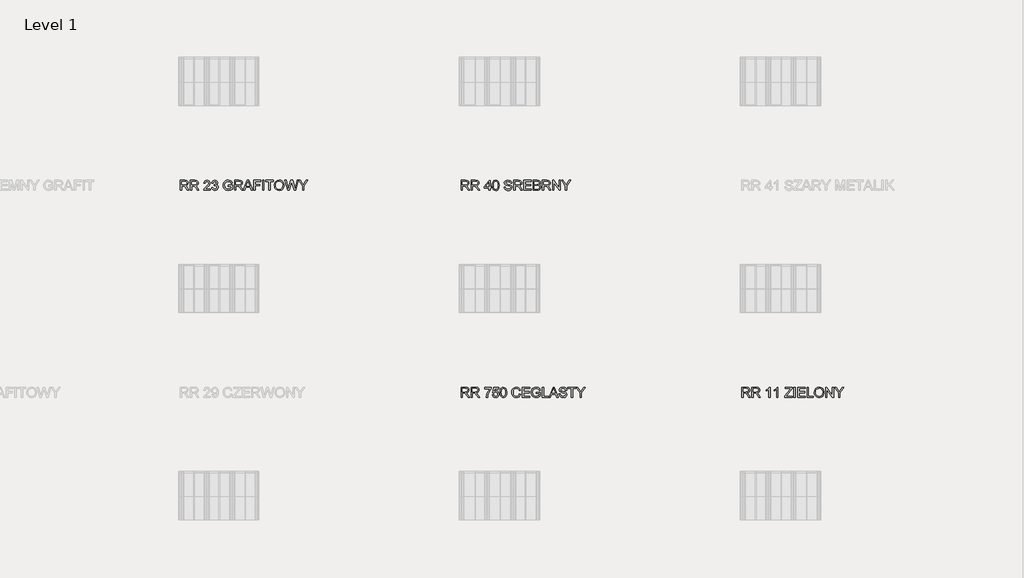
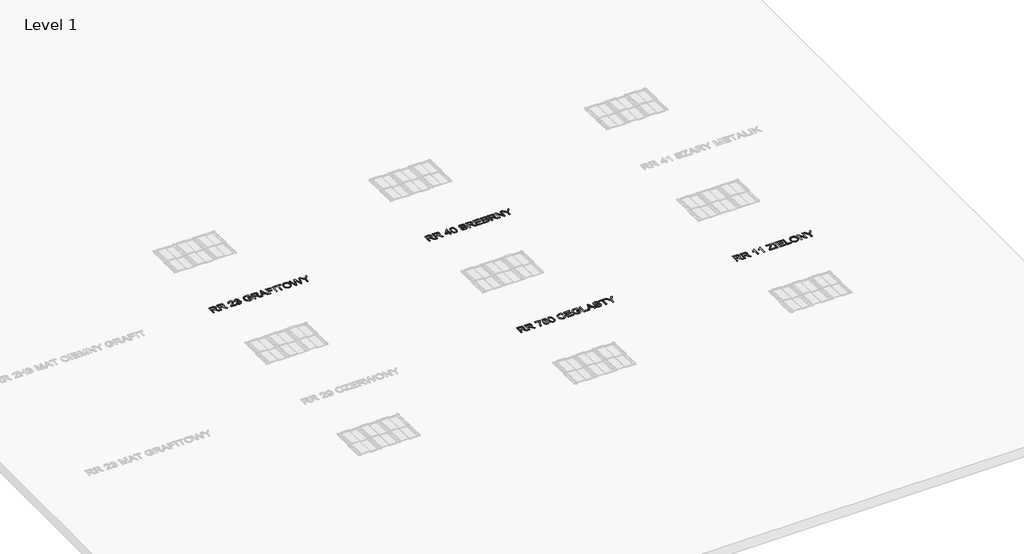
# One storey, part 6 of 10: 4 proxies.
"""IFC4 building model written with IfcOpenShell, lengths in millimetres."""

from ifc_helpers import new_model, si_unit, frame, origin, place, context, project, spatial, polyline, outline, extrude, element, save

model = new_model("IFC4")

# Units and contexts
model_context = context("Model", 3, world=origin())
ifc_project = project(units=[si_unit("LENGTHUNIT", "METRE", prefix="MILLI")], contexts=[model_context])

# Site, building, storey
site = spatial("IfcSite", under=ifc_project)
building = spatial("IfcBuilding", under=site)
storey = spatial("IfcBuildingStorey", under=building, Name="Level 1", Elevation=0.0)

# Proxies
placement = place(None, origin())
element("IfcBuildingElementProxy", 1, Name="150 Blue", ObjectType="150 Blue", at=placement, inside=storey, context=model_context, shape_type="SweptSolid", body=[
    extrude(outline(polyline([(-4536.4118342, -1635.6514112), (-4536.4118342, -1484.966946), (-4471.4806621, -1484.966946), (-4441.3327325, -1489.032042), (-4432.0529092, -1494.6606365), (-4424.8516192, -1503.416228), (-4420.2301016, -1514.2733454), (-4418.6895957, -1526.2065176), (-4421.2417771, -1541.0505561), (-4428.8983211, -1553.3562089), (-4441.8891541, -1562.3785148), (-4460.4442022, -1567.3725129), (-4449.7388361, -1575.4291286), (-4434.4717333, -1594.8165097), (-4409.3453931, -1635.6514112), (-4431.2343718, -1635.6514112), (-4450.8424821, -1604.4182298), (-4465.0059389, -1583.7432617), (-4474.9571469, -1573.9759947), (-4483.9150735, -1570.3891452), (-4494.8411687, -1569.7269577), (-4517.576276, -1569.7269577), (-4517.576276, -1635.6514112), (-4536.4118342, -1635.6514112)]), holes=[polyline([(-4517.576276, -1550.8913995), (-4475.4169994, -1550.8913995), (-4453.9142968, -1548.224255), (-4441.7006145, -1539.6893927), (-4437.5251539, -1526.9054934), (-4439.5163152, -1517.7176406), (-4445.4897991, -1510.3140154), (-4455.7675023, -1505.4303819), (-4470.6713217, -1503.8025041), (-4517.576276, -1503.8025041), (-4517.576276, -1550.8913995)])]), frame((0.0, 0.0, 600.0), z_axis=(0.0, 0.0, 1.0), x_axis=(1.0, 0.0, 0.0)), (0.0, 0.0, 1.0), 10.0),
    extrude(outline(polyline([(-4385.727369, -1635.6514112), (-4385.727369, -1484.966946), (-4320.7961968, -1484.966946), (-4290.6482673, -1489.032042), (-4281.368444, -1494.6606365), (-4274.1671539, -1503.416228), (-4269.5456364, -1514.2733454), (-4268.0051305, -1526.2065176), (-4270.5573119, -1541.0505561), (-4278.2138559, -1553.3562089), (-4291.2046888, -1562.3785148), (-4309.759737, -1567.3725129), (-4299.0543709, -1575.4291286), (-4283.7872681, -1594.8165097), (-4258.6609278, -1635.6514112), (-4280.5499066, -1635.6514112), (-4300.1580169, -1604.4182298), (-4314.3214737, -1583.7432617), (-4324.2726817, -1573.9759947), (-4333.2306083, -1570.3891452), (-4344.1567035, -1569.7269577), (-4366.8918108, -1569.7269577), (-4366.8918108, -1635.6514112), (-4385.727369, -1635.6514112)]), holes=[polyline([(-4366.8918108, -1550.8913995), (-4324.7325342, -1550.8913995), (-4303.2298316, -1548.224255), (-4291.0161493, -1539.6893927), (-4286.8406887, -1526.9054934), (-4288.83185, -1517.7176406), (-4294.8053339, -1510.3140154), (-4305.0830371, -1505.4303819), (-4319.9868564, -1503.8025041), (-4366.8918108, -1503.8025041), (-4366.8918108, -1550.8913995)])]), frame((0.0, 0.0, 600.0), z_axis=(0.0, 0.0, 1.0), x_axis=(1.0, 0.0, 0.0)), (0.0, 0.0, 1.0), 10.0),
    extrude(outline(polyline([(-4086.7128833, -1616.815853), (-4086.7128833, -1635.6514112), (-4185.5995636, -1635.6514112), (-4183.5762126, -1622.6651768), (-4172.1166885, -1602.6707903), (-4148.5170585, -1580.8369939), (-4116.0146842, -1549.4566597), (-4109.9308357, -1538.6409291), (-4107.9028862, -1528.119504), (-4109.8204711, -1518.6879293), (-4115.5732258, -1510.8474443), (-4124.4161893, -1505.5637392), (-4135.6044005, -1503.8025041), (-4147.3536317, -1505.5223524), (-4156.4817037, -1510.6818974), (-4162.3724141, -1518.8764689), (-4164.4095607, -1529.7013966), (-4183.2451188, -1527.3469518), (-4178.6787836, -1509.127596), (-4168.8057505, -1495.8194648), (-4154.1410545, -1487.6800757), (-4135.1997303, -1484.966946), (-4116.1204503, -1487.9835783), (-4101.4833454, -1497.0334754), (-4092.1713324, -1510.5531387), (-4089.0673281, -1526.9790698), (-4092.4150542, -1544.8397407), (-4103.5434846, -1563.3074168), (-4130.5276289, -1589.1143388), (-4152.1958784, -1607.2325271), (-4160.6939525, -1616.815853), (-4086.7128833, -1616.815853)])), frame((0.0, 0.0, 600.0), z_axis=(0.0, 0.0, 1.0), x_axis=(1.0, 0.0, 0.0)), (0.0, 0.0, 1.0), 10.0),
    extrude(outline(polyline([(-4067.8773251, -1595.6258501), (-4049.041767, -1593.2714053), (-4044.8249196, -1605.1080085), (-4038.6491006, -1613.1002449), (-4030.2108074, -1617.6527846), (-4019.2065372, -1619.1702978), (-4006.2938792, -1617.0825675), (-3996.3242771, -1610.8193765), (-3989.9507215, -1601.4751738), (-3987.826203, -1590.1444084), (-3989.9323274, -1579.3884586), (-3996.2507007, -1570.6650567), (-4005.8156326, -1564.8847109), (-4017.6614328, -1562.9579289), (-4030.8683964, -1565.0180681), (-4028.7714691, -1546.18251), (-4025.7548367, -1546.4032392), (-4004.3808928, -1540.9953738), (-3997.2623762, -1534.1343746), (-3994.8895373, -1524.3671076), (-3996.6093856, -1516.232317), (-4001.7689306, -1509.6334337), (-4009.6416053, -1505.2602365), (-4019.5008428, -1503.8025041), (-4029.3784744, -1505.2740321), (-4037.4534841, -1509.688616), (-4043.3487931, -1517.0462559), (-4046.6873222, -1527.3469518), (-4065.5228804, -1524.992507), (-4059.9770593, -1508.0791323), (-4050.1086248, -1495.4515828), (-4036.6073556, -1487.5881052), (-4020.1630304, -1484.966946), (-3997.4463172, -1490.135688), (-3981.553815, -1504.2623566), (-3976.0539791, -1523.2634617), (-3981.2779035, -1540.6274918), (-3996.7289473, -1553.0986915), (-3984.9383293, -1557.8627633), (-3976.2011319, -1565.9745613), (-3970.7932666, -1576.9926271), (-3968.9906448, -1590.4755022), (-3972.5958884, -1608.8328137), (-3983.4116191, -1624.1734929), (-3999.7363826, -1634.5477652), (-4019.8687248, -1638.005856), (-4038.0788835, -1635.0536029), (-4052.9045279, -1626.1968439), (-4063.2144209, -1612.6495894), (-4067.8773251, -1595.6258501)])), frame((0.0, 0.0, 600.0), z_axis=(0.0, 0.0, 1.0), x_axis=(1.0, 0.0, 0.0)), (0.0, 0.0, 1.0), 10.0),
    extrude(outline(polyline([(-3815.9517348, -1576.790292), (-3815.9517348, -1557.9547338), (-3754.7361709, -1557.9547338), (-3754.7361709, -1614.2774673), (-3784.9576768, -1632.0461676), (-3816.908228, -1638.005856), (-3838.0384501, -1635.6376156), (-3857.1361242, -1628.5328946), (-3873.0010353, -1616.9400132), (-3884.4329683, -1601.1072918), (-3891.3445512, -1582.1153838), (-3893.6484122, -1561.0449426), (-3891.3537483, -1539.82275), (-3884.4697564, -1520.0812824), (-3873.2815453, -1503.5219941), (-3858.0742233, -1491.8463393), (-3839.5513648, -1484.9209607), (-3818.4165442, -1482.6125012), (-3788.9491964, -1487.9651842), (-3777.1999652, -1494.3663309), (-3768.2926224, -1502.864405), (-3756.9066746, -1527.7884102), (-3774.2707048, -1532.6812407), (-3782.8607494, -1515.2620283), (-3797.539241, -1505.2188498), (-3818.7108498, -1501.4480593), (-3842.8255146, -1505.5131554), (-3859.2330516, -1516.1817333), (-3868.9267422, -1530.694678), (-3874.8128541, -1560.2723904), (-3873.042422, -1578.2848126), (-3867.7311257, -1593.1058584), (-3859.0399135, -1604.6297619), (-3847.1297339, -1612.750757), (-3833.1916048, -1617.5654126), (-3818.4165442, -1619.1702978), (-3792.6464105, -1614.3326496), (-3773.571729, -1604.0135596), (-3773.571729, -1576.790292), (-3815.9517348, -1576.790292)])), frame((0.0, 0.0, 600.0), z_axis=(0.0, 0.0, 1.0), x_axis=(1.0, 0.0, 0.0)), (0.0, 0.0, 1.0), 10.0),
    extrude(outline(polyline([(-3724.1283889, -1635.6514112), (-3724.1283889, -1484.966946), (-3659.1972167, -1484.966946), (-3629.0492872, -1489.032042), (-3619.7694639, -1494.6606365), (-3612.5681738, -1503.416228), (-3607.9466563, -1514.2733454), (-3606.4061504, -1526.2065176), (-3608.9583317, -1541.0505561), (-3616.6148758, -1553.3562089), (-3629.6057087, -1562.3785148), (-3648.1607568, -1567.3725129), (-3637.4553908, -1575.4291286), (-3622.188288, -1594.8165097), (-3597.0619477, -1635.6514112), (-3618.9509264, -1635.6514112), (-3638.5590368, -1604.4182298), (-3652.7224936, -1583.7432617), (-3662.6737016, -1573.9759947), (-3671.6316281, -1570.3891452), (-3682.5577234, -1569.7269577), (-3705.2928307, -1569.7269577), (-3705.2928307, -1635.6514112), (-3724.1283889, -1635.6514112)]), holes=[polyline([(-3705.2928307, -1550.8913995), (-3663.1335541, -1550.8913995), (-3641.6308514, -1548.224255), (-3629.4171692, -1539.6893927), (-3625.2417085, -1526.9054934), (-3627.2328698, -1517.7176406), (-3633.2063537, -1510.3140154), (-3643.484057, -1505.4303819), (-3658.3878763, -1503.8025041), (-3705.2928307, -1503.8025041), (-3705.2928307, -1550.8913995)])]), frame((0.0, 0.0, 600.0), z_axis=(0.0, 0.0, 1.0), x_axis=(1.0, 0.0, 0.0)), (0.0, 0.0, 1.0), 10.0),
    extrude(outline(polyline([(-3590.9551066, -1635.6514112), (-3530.8064004, -1484.966946), (-3514.7667454, -1484.966946), (-3454.6548274, -1635.6514112), (-3474.5572433, -1635.6514112), (-3491.7741207, -1588.5625158), (-3553.8726015, -1588.5625158), (-3571.0894789, -1635.6514112), (-3590.9551066, -1635.6514112)]), holes=[polyline([(-3546.95642, -1569.7269577), (-3498.653514, -1569.7269577), (-3512.2651478, -1532.6812407), (-3522.8233611, -1503.8025041), (-3532.204352, -1529.4438792), (-3546.95642, -1569.7269577)])]), frame((0.0, 0.0, 600.0), z_axis=(0.0, 0.0, 1.0), x_axis=(1.0, 0.0, 0.0)), (0.0, 0.0, 1.0), 10.0),
    extrude(outline(polyline([(-3434.5316822, -1635.6514112), (-3434.5316822, -1484.966946), (-3333.2905572, -1484.966946), (-3333.2905572, -1503.8025041), (-3415.6961241, -1503.8025041), (-3415.6961241, -1548.5369547), (-3345.062781, -1548.5369547), (-3345.062781, -1567.3725129), (-3415.6961241, -1567.3725129), (-3415.6961241, -1635.6514112), (-3434.5316822, -1635.6514112)])), frame((0.0, 0.0, 600.0), z_axis=(0.0, 0.0, 1.0), x_axis=(1.0, 0.0, 0.0)), (0.0, 0.0, 1.0), 10.0),
    extrude(outline(polyline([(-3305.0372199, -1635.6514112), (-3305.0372199, -1484.966946), (-3286.2016618, -1484.966946), (-3286.2016618, -1635.6514112), (-3305.0372199, -1635.6514112)])), frame((0.0, 0.0, 600.0), z_axis=(0.0, 0.0, 1.0), x_axis=(1.0, 0.0, 0.0)), (0.0, 0.0, 1.0), 10.0),
    extrude(outline(polyline([(-3210.8594292, -1635.6514112), (-3210.8594292, -1503.8025041), (-3260.3027693, -1503.8025041), (-3260.3027693, -1484.966946), (-3142.5805309, -1484.966946), (-3142.5805309, -1503.8025041), (-3192.023871, -1503.8025041), (-3192.023871, -1635.6514112), (-3210.8594292, -1635.6514112)])), frame((0.0, 0.0, 600.0), z_axis=(0.0, 0.0, 1.0), x_axis=(1.0, 0.0, 0.0)), (0.0, 0.0, 1.0), 10.0),
    extrude(outline(polyline([(-3128.4538623, -1562.2957413), (-3123.432273, -1528.9748296), (-3117.1552865, -1515.356298), (-3108.3675053, -1503.7657159), (-3085.3656836, -1487.9008049), (-3056.5329322, -1482.6125012), (-3036.768472, -1485.0957047), (-3019.0457569, -1492.5453151), (-3004.3304771, -1504.4371006), (-2993.5883228, -1520.2468293), (-2987.0216292, -1539.2111462), (-2984.8327313, -1560.566696), (-2987.1365923, -1582.2073543), (-2994.0481753, -1601.4383856), (-3005.1858027, -1617.2757055), (-3020.167797, -1628.7352297), (-3037.7387608, -1635.6881994), (-3056.6432968, -1638.005856), (-3076.7112596, -1635.4444776), (-3094.5351423, -1627.7603424), (-3109.2136339, -1615.6478277), (-3119.8454236, -1599.8013108), (-3126.3017526, -1581.5681594), (-3128.4538623, -1562.2957413)]), holes=[polyline([(-3109.6183041, -1562.4796823), (-3105.8521122, -1586.0517212), (-3094.5535364, -1604.0135596), (-3077.5711838, -1615.3811133), (-3056.7536614, -1619.1702978), (-3035.6326364, -1615.3443251), (-3018.6226926, -1603.8664068), (-3007.4068903, -1585.3527454), (-3003.6682895, -1560.4195432), (-3005.2685762, -1543.7452917), (-3010.0694362, -1529.3335146), (-3017.9467094, -1517.5474952), (-3028.7762357, -1508.750517), (-3041.840645, -1503.2736737), (-3056.4225676, -1501.4480593), (-3076.6836685, -1504.9659309), (-3093.9097429, -1515.5195457), (-3105.6911638, -1534.295323), (-3109.6183041, -1562.4796823)])]), frame((0.0, 0.0, 600.0), z_axis=(0.0, 0.0, 1.0), x_axis=(1.0, 0.0, 0.0)), (0.0, 0.0, 1.0), 10.0),
    extrude(outline(polyline([(-2931.9680886, -1635.6514112), (-2973.0605075, -1484.966946), (-2953.6363382, -1484.966946), (-2929.7975849, -1584.0007791), (-2922.439945, -1614.5717729), (-2914.5672703, -1587.5324462), (-2884.6952523, -1484.966946), (-2856.6994324, -1484.966946), (-2834.9943947, -1559.3158972), (-2818.8443751, -1614.5717729), (-2811.7074644, -1584.8836959), (-2787.6847701, -1484.966946), (-2768.2238126, -1484.966946), (-2809.2794432, -1635.6514112), (-2829.4393766, -1635.6514112), (-2865.6021767, -1519.4007007), (-2870.64216, -1503.1771047), (-2876.3075428, -1522.7116387), (-2909.2329813, -1635.6514112), (-2931.9680886, -1635.6514112)])), frame((0.0, 0.0, 600.0), z_axis=(0.0, 0.0, 1.0), x_axis=(1.0, 0.0, 0.0)), (0.0, 0.0, 1.0), 10.0),
    extrude(outline(polyline([(-2707.0082486, -1635.6514112), (-2707.0082486, -1571.823885), (-2765.8693678, -1484.966946), (-2743.6860835, -1484.966946), (-2712.2689611, -1531.3568656), (-2696.1925179, -1555.048466), (-2680.0424983, -1529.6646084), (-2651.5316437, -1484.966946), (-2629.3115712, -1484.966946), (-2688.1726904, -1571.823885), (-2688.1726904, -1635.6514112), (-2707.0082486, -1635.6514112)])), frame((0.0, 0.0, 600.0), z_axis=(0.0, 0.0, 1.0), x_axis=(1.0, 0.0, 0.0)), (0.0, 0.0, 1.0), 10.0),
])
element("IfcBuildingElementProxy", 2, Name="150 Blue", ObjectType="150 Blue", at=placement, inside=storey, context=model_context, shape_type="SweptSolid", body=[
    extrude(outline(polyline([(-336.4118342, -1635.6514112), (-336.4118342, -1484.966946), (-271.4806621, -1484.966946), (-241.3327325, -1489.032042), (-232.0529092, -1494.6606365), (-224.8516192, -1503.416228), (-220.2301016, -1514.2733454), (-218.6895957, -1526.2065176), (-221.2417771, -1541.0505561), (-228.8983211, -1553.3562089), (-241.8891541, -1562.3785148), (-260.4442022, -1567.3725129), (-249.7388361, -1575.4291286), (-234.4717333, -1594.8165097), (-209.3453931, -1635.6514112), (-231.2343718, -1635.6514112), (-250.8424821, -1604.4182298), (-265.0059389, -1583.7432617), (-274.9571469, -1573.9759947), (-283.9150735, -1570.3891452), (-294.8411687, -1569.7269577), (-317.576276, -1569.7269577), (-317.576276, -1635.6514112), (-336.4118342, -1635.6514112)]), holes=[polyline([(-317.576276, -1550.8913995), (-275.4169994, -1550.8913995), (-253.9142968, -1548.224255), (-241.7006145, -1539.6893927), (-237.5251539, -1526.9054934), (-239.5163152, -1517.7176406), (-245.4897991, -1510.3140154), (-255.7675023, -1505.4303819), (-270.6713217, -1503.8025041), (-317.576276, -1503.8025041), (-317.576276, -1550.8913995)])]), frame((0.0, 0.0, 600.0), z_axis=(0.0, 0.0, 1.0), x_axis=(1.0, 0.0, 0.0)), (0.0, 0.0, 1.0), 10.0),
    extrude(outline(polyline([(-185.727369, -1635.6514112), (-185.727369, -1484.966946), (-120.7961968, -1484.966946), (-90.6482673, -1489.032042), (-81.368444, -1494.6606365), (-74.1671539, -1503.416228), (-69.5456364, -1514.2733454), (-68.0051305, -1526.2065176), (-70.5573119, -1541.0505561), (-78.2138559, -1553.3562089), (-91.2046888, -1562.3785148), (-109.759737, -1567.3725129), (-99.0543709, -1575.4291286), (-83.7872681, -1594.8165097), (-58.6609278, -1635.6514112), (-80.5499066, -1635.6514112), (-100.1580169, -1604.4182298), (-114.3214737, -1583.7432617), (-124.2726817, -1573.9759947), (-133.2306083, -1570.3891452), (-144.1567035, -1569.7269577), (-166.8918108, -1569.7269577), (-166.8918108, -1635.6514112), (-185.727369, -1635.6514112)]), holes=[polyline([(-166.8918108, -1550.8913995), (-124.7325342, -1550.8913995), (-103.2298316, -1548.224255), (-91.0161493, -1539.6893927), (-86.8406887, -1526.9054934), (-88.83185, -1517.7176406), (-94.8053339, -1510.3140154), (-105.0830371, -1505.4303819), (-119.9868564, -1503.8025041), (-166.8918108, -1503.8025041), (-166.8918108, -1550.8913995)])]), frame((0.0, 0.0, 600.0), z_axis=(0.0, 0.0, 1.0), x_axis=(1.0, 0.0, 0.0)), (0.0, 0.0, 1.0), 10.0),
    extrude(outline(polyline([(77.9704452, -1635.6514112), (77.9704452, -1600.3347397), (9.6915469, -1600.3347397), (9.6915469, -1581.4991815), (82.6793347, -1487.3213907), (96.8060033, -1487.3213907), (96.8060033, -1581.4991815), (115.6415615, -1581.4991815), (115.6415615, -1600.3347397), (96.8060033, -1600.3347397), (96.8060033, -1635.6514112), (77.9704452, -1635.6514112)]), holes=[polyline([(77.9704452, -1581.4991815), (77.9704452, -1523.3002499), (32.8681126, -1581.4991815), (77.9704452, -1581.4991815)])]), frame((0.0, 0.0, 600.0), z_axis=(0.0, 0.0, 1.0), x_axis=(1.0, 0.0, 0.0)), (0.0, 0.0, 1.0), 10.0),
    extrude(outline(polyline([(132.1226749, -1561.5231892), (133.5068309, -1537.4039259), (137.6592989, -1518.168296), (144.5386922, -1503.5219941), (154.1036241, -1493.1707145), (166.4230724, -1487.0178881), (181.566015, -1484.966946), (203.5653583, -1489.8229883), (218.7588847, -1503.8208982), (227.5880526, -1526.1145471), (231.0093552, -1561.5231892), (229.6389947, -1585.5044967), (225.5279134, -1604.6941413), (218.6899068, -1619.3542388), (209.1387705, -1629.7469052), (196.7917311, -1635.9411183), (181.566015, -1638.005856), (161.9946929, -1634.4190065), (147.1322603, -1623.6584581), (135.8750712, -1598.1734329), (132.1226749, -1561.5231892)]), holes=[polyline([(150.958233, -1561.486401), (153.165525, -1591.1146971), (159.7874009, -1608.2625966), (169.6466384, -1616.4433725), (181.566015, -1619.1702978), (193.4853917, -1616.4341755), (203.3446291, -1608.2258084), (209.966505, -1591.0687119), (212.173797, -1561.486401), (210.0400814, -1532.5248909), (203.6389347, -1515.2436342), (193.7980913, -1506.6627866), (181.3452858, -1503.8025041), (169.5546679, -1506.3224958), (160.0817065, -1513.8824708), (153.2391014, -1532.2397823), (150.958233, -1561.486401)])]), frame((0.0, 0.0, 600.0), z_axis=(0.0, 0.0, 1.0), x_axis=(1.0, 0.0, 0.0)), (0.0, 0.0, 1.0), 10.0),
    extrude(outline(polyline([(306.3515878, -1583.8536263), (325.1871459, -1583.8536263), (331.2571988, -1602.7075785), (346.0828432, -1614.6269552), (368.6707978, -1619.1702978), (388.3524845, -1615.7306011), (401.0628074, -1606.2760339), (405.2382681, -1593.6392873), (402.1112711, -1581.8854576), (389.3089777, -1573.3322012), (361.8833749, -1566.1401082), (332.3608448, -1556.8510878), (316.3395839, -1542.8347838), (311.0604773, -1524.1095903), (312.6929537, -1513.0777289), (317.5903827, -1502.7908286), (325.6240058, -1494.0720253), (336.6650642, -1487.744455), (364.5873076, -1482.6125012), (394.3857492, -1487.9835783), (405.8084852, -1494.6146513), (414.251377, -1503.7657159), (419.5948629, -1514.8665551), (421.7193815, -1527.3469518), (402.8838233, -1527.3469518), (399.4257326, -1516.1081569), (392.2152454, -1507.9963589), (380.9488593, -1503.0851342), (365.3230716, -1501.4480593), (349.3294019, -1503.0667401), (338.3573214, -1507.9227825), (332.0113569, -1515.0688902), (329.8960355, -1523.5577673), (331.3951546, -1530.7958455), (335.892512, -1536.6175781), (366.6474468, -1547.1390031), (399.9775555, -1556.5935704), (410.7151113, -1563.4269785), (418.2061084, -1571.8606732), (422.6068968, -1581.8026841), (424.0738262, -1593.1610407), (422.3861676, -1604.7723162), (417.3231916, -1615.6938129), (409.091832, -1625.0931979), (397.8990223, -1632.1381381), (384.4391398, -1636.5389265), (369.4065617, -1638.005856), (350.9526812, -1636.4239634), (335.7637533, -1631.6782856), (323.6650342, -1623.7504286), (314.4817799, -1612.6219983), (308.5864709, -1599.0655468), (306.3515878, -1583.8536263)])), frame((0.0, 0.0, 600.0), z_axis=(0.0, 0.0, 1.0), x_axis=(1.0, 0.0, 0.0)), (0.0, 0.0, 1.0), 10.0),
    extrude(outline(polyline([(452.3271635, -1635.6514112), (452.3271635, -1484.966946), (517.2583356, -1484.966946), (547.4062651, -1489.032042), (556.6860884, -1494.6606365), (563.8873785, -1503.416228), (568.5088961, -1514.2733454), (570.0494019, -1526.2065176), (567.4972206, -1541.0505561), (559.8406765, -1553.3562089), (546.8498436, -1562.3785148), (528.2947955, -1567.3725129), (539.0001615, -1575.4291286), (554.2672643, -1594.8165097), (579.3936046, -1635.6514112), (557.5046259, -1635.6514112), (537.8965155, -1604.4182298), (523.7330587, -1583.7432617), (513.7818508, -1573.9759947), (504.8239242, -1570.3891452), (493.8978289, -1569.7269577), (471.1627216, -1569.7269577), (471.1627216, -1635.6514112), (452.3271635, -1635.6514112)]), holes=[polyline([(471.1627216, -1550.8913995), (513.3219983, -1550.8913995), (534.8247009, -1548.224255), (547.0383831, -1539.6893927), (551.2138438, -1526.9054934), (549.2226825, -1517.7176406), (543.2491986, -1510.3140154), (532.9714953, -1505.4303819), (518.067676, -1503.8025041), (471.1627216, -1503.8025041), (471.1627216, -1550.8913995)])]), frame((0.0, 0.0, 600.0), z_axis=(0.0, 0.0, 1.0), x_axis=(1.0, 0.0, 0.0)), (0.0, 0.0, 1.0), 10.0),
    extrude(outline(polyline([(603.0116287, -1635.6514112), (603.0116287, -1484.966946), (711.3160881, -1484.966946), (711.3160881, -1503.8025041), (621.8471868, -1503.8025041), (621.8471868, -1548.5369547), (706.6071985, -1548.5369547), (706.6071985, -1567.3725129), (621.8471868, -1567.3725129), (621.8471868, -1616.815853), (713.6705328, -1616.815853), (713.6705328, -1635.6514112), (603.0116287, -1635.6514112)])), frame((0.0, 0.0, 600.0), z_axis=(0.0, 0.0, 1.0), x_axis=(1.0, 0.0, 0.0)), (0.0, 0.0, 1.0), 10.0),
    extrude(outline(polyline([(741.9238701, -1635.6514112), (741.9238701, -1484.966946), (799.4238259, -1484.966946), (827.5851926, -1489.399924), (837.048957, -1495.02392), (844.2134588, -1503.0299519), (850.2283294, -1522.3069685), (845.169952, -1539.9101219), (829.8844551, -1553.2458443), (840.5576315, -1558.8192565), (848.4441018, -1567.2989365), (853.3139397, -1578.1238642), (854.937219, -1590.7330196), (850.5042409, -1610.9849234), (839.5229634, -1625.4058976), (823.1338205, -1633.0578431), (798.9823675, -1635.6514112), (741.9238701, -1635.6514112)]), holes=[polyline([(760.7594282, -1546.18251), (795.1563948, -1546.18251), (815.2427517, -1544.5638292), (827.3276752, -1537.5924654), (831.3927713, -1525.3236008), (827.6035867, -1513.0363422), (816.7510679, -1505.7706728), (792.5444326, -1503.8025041), (760.7594282, -1503.8025041), (760.7594282, -1546.18251)]), polyline([(760.7594282, -1616.815853), (799.3870377, -1616.815853), (813.3665535, -1616.080089), (825.1939597, -1611.9782048), (833.0298462, -1603.6088894), (836.1016608, -1590.9169606), (832.4964173, -1576.2752572), (820.8161639, -1567.5380598), (797.5476277, -1565.0180681), (760.7594282, -1565.0180681), (760.7594282, -1616.815853)])]), frame((0.0, 0.0, 600.0), z_axis=(0.0, 0.0, 1.0), x_axis=(1.0, 0.0, 0.0)), (0.0, 0.0, 1.0), 10.0),
    extrude(outline(polyline([(880.8361114, -1635.6514112), (880.8361114, -1484.966946), (945.7672836, -1484.966946), (975.9152131, -1489.032042), (985.1950364, -1494.6606365), (992.3963265, -1503.416228), (997.017844, -1514.2733454), (998.5583499, -1526.2065176), (996.0061686, -1541.0505561), (988.3496245, -1553.3562089), (975.3587916, -1562.3785148), (956.8037434, -1567.3725129), (967.5091095, -1575.4291286), (982.7762123, -1594.8165097), (1007.9025526, -1635.6514112), (986.0135739, -1635.6514112), (966.4054635, -1604.4182298), (952.2420067, -1583.7432617), (942.2907987, -1573.9759947), (933.3328722, -1570.3891452), (922.4067769, -1569.7269577), (899.6716696, -1569.7269577), (899.6716696, -1635.6514112), (880.8361114, -1635.6514112)]), holes=[polyline([(899.6716696, -1550.8913995), (941.8309462, -1550.8913995), (963.3336489, -1548.224255), (975.5473311, -1539.6893927), (979.7227917, -1526.9054934), (977.7316304, -1517.7176406), (971.7581465, -1510.3140154), (961.4804433, -1505.4303819), (946.576624, -1503.8025041), (899.6716696, -1503.8025041), (899.6716696, -1550.8913995)])]), frame((0.0, 0.0, 600.0), z_axis=(0.0, 0.0, 1.0), x_axis=(1.0, 0.0, 0.0)), (0.0, 0.0, 1.0), 10.0),
    extrude(outline(polyline([(1031.5205767, -1635.6514112), (1031.5205767, -1484.966946), (1051.68051, -1484.966946), (1130.407257, -1604.3446534), (1130.407257, -1484.966946), (1149.2428151, -1484.966946), (1149.2428151, -1635.6514112), (1129.0828818, -1635.6514112), (1050.3561348, -1516.2369156), (1050.3561348, -1635.6514112), (1031.5205767, -1635.6514112)])), frame((0.0, 0.0, 600.0), z_axis=(0.0, 0.0, 1.0), x_axis=(1.0, 0.0, 0.0)), (0.0, 0.0, 1.0), 10.0),
    extrude(outline(polyline([(1224.5850477, -1635.6514112), (1224.5850477, -1571.823885), (1165.7239285, -1484.966946), (1187.9072128, -1484.966946), (1219.3243352, -1531.3568656), (1235.4007784, -1555.048466), (1251.550798, -1529.6646084), (1280.0616526, -1484.966946), (1302.2817251, -1484.966946), (1243.4206059, -1571.823885), (1243.4206059, -1635.6514112), (1224.5850477, -1635.6514112)])), frame((0.0, 0.0, 600.0), z_axis=(0.0, 0.0, 1.0), x_axis=(1.0, 0.0, 0.0)), (0.0, 0.0, 1.0), 10.0),
])
element("IfcBuildingElementProxy", 3, Name="150 Blue", ObjectType="150 Blue", at=placement, inside=storey, context=model_context, shape_type="SweptSolid", body=[
    extrude(outline(polyline([(-336.4118342, -4735.6514112), (-336.4118342, -4584.966946), (-271.4806621, -4584.966946), (-241.3327325, -4589.032042), (-232.0529092, -4594.6606365), (-224.8516192, -4603.416228), (-220.2301016, -4614.2733454), (-218.6895957, -4626.2065176), (-221.2417771, -4641.0505561), (-228.8983211, -4653.3562089), (-241.8891541, -4662.3785148), (-260.4442022, -4667.3725129), (-249.7388361, -4675.4291286), (-234.4717333, -4694.8165097), (-209.3453931, -4735.6514112), (-231.2343718, -4735.6514112), (-250.8424821, -4704.4182298), (-265.0059389, -4683.7432617), (-274.9571469, -4673.9759947), (-283.9150735, -4670.3891452), (-294.8411687, -4669.7269577), (-317.576276, -4669.7269577), (-317.576276, -4735.6514112), (-336.4118342, -4735.6514112)]), holes=[polyline([(-317.576276, -4650.8913995), (-275.4169994, -4650.8913995), (-253.9142968, -4648.224255), (-241.7006145, -4639.6893927), (-237.5251539, -4626.9054934), (-239.5163152, -4617.7176406), (-245.4897991, -4610.3140154), (-255.7675023, -4605.4303819), (-270.6713217, -4603.8025041), (-317.576276, -4603.8025041), (-317.576276, -4650.8913995)])]), frame((0.0, 0.0, 600.0), z_axis=(0.0, 0.0, 1.0), x_axis=(1.0, 0.0, 0.0)), (0.0, 0.0, 1.0), 10.0),
    extrude(outline(polyline([(-185.727369, -4735.6514112), (-185.727369, -4584.966946), (-120.7961968, -4584.966946), (-90.6482673, -4589.032042), (-81.368444, -4594.6606365), (-74.1671539, -4603.416228), (-69.5456364, -4614.2733454), (-68.0051305, -4626.2065176), (-70.5573119, -4641.0505561), (-78.2138559, -4653.3562089), (-91.2046888, -4662.3785148), (-109.759737, -4667.3725129), (-99.0543709, -4675.4291286), (-83.7872681, -4694.8165097), (-58.6609278, -4735.6514112), (-80.5499066, -4735.6514112), (-100.1580169, -4704.4182298), (-114.3214737, -4683.7432617), (-124.2726817, -4673.9759947), (-133.2306083, -4670.3891452), (-144.1567035, -4669.7269577), (-166.8918108, -4669.7269577), (-166.8918108, -4735.6514112), (-185.727369, -4735.6514112)]), holes=[polyline([(-166.8918108, -4650.8913995), (-124.7325342, -4650.8913995), (-103.2298316, -4648.224255), (-91.0161493, -4639.6893927), (-86.8406887, -4626.9054934), (-88.83185, -4617.7176406), (-94.8053339, -4610.3140154), (-105.0830371, -4605.4303819), (-119.9868564, -4603.8025041), (-166.8918108, -4603.8025041), (-166.8918108, -4650.8913995)])]), frame((0.0, 0.0, 600.0), z_axis=(0.0, 0.0, 1.0), x_axis=(1.0, 0.0, 0.0)), (0.0, 0.0, 1.0), 10.0),
    extrude(outline(polyline([(16.7548812, -4606.1569489), (16.7548812, -4587.3213907), (115.6415615, -4587.3213907), (115.6415615, -4602.5517053), (87.5905593, -4643.0739071), (75.2803081, -4668.5359397), (66.1246449, -4694.7061451), (59.134887, -4735.6514112), (40.2993289, -4735.6514112), (47.7857275, -4693.1610407), (56.4999322, -4668.7014866), (68.3319369, -4645.1340463), (96.8060033, -4606.1569489), (16.7548812, -4606.1569489)])), frame((0.0, 0.0, 600.0), z_axis=(0.0, 0.0, 1.0), x_axis=(1.0, 0.0, 0.0)), (0.0, 0.0, 1.0), 10.0),
    extrude(outline(polyline([(132.1226749, -4695.6258501), (150.958233, -4693.2714053), (154.4163238, -4704.5791782), (160.4495885, -4712.6771806), (169.030436, -4717.5470185), (180.1312752, -4719.1702978), (193.6325444, -4716.9124221), (203.7492993, -4710.1387948), (210.0676726, -4699.6311653), (212.173797, -4686.1712828), (210.2010298, -4673.4977481), (204.2827282, -4663.8040575), (194.372907, -4657.6512312), (180.4255808, -4655.600289), (163.8892851, -4658.8744388), (153.3126778, -4667.3725129), (134.4771196, -4665.0180681), (150.958233, -4587.3213907), (223.9460209, -4587.3213907), (223.9460209, -4606.1569489), (166.1885476, -4606.1569489), (158.0951437, -4647.6540379), (171.5504277, -4639.4870576), (185.6495052, -4636.7647309), (203.2526586, -4640.1400482), (217.8759679, -4650.2660001), (227.7260084, -4665.6986498), (231.0093552, -4684.9940605), (228.0571021, -4703.8296186), (219.2003431, -4719.94285), (202.2409831, -4733.4901045), (180.0576988, -4738.005856), (161.557833, -4735.1041867), (146.8195606, -4726.399179), (136.7166013, -4712.9025083), (132.1226749, -4695.6258501)])), frame((0.0, 0.0, 600.0), z_axis=(0.0, 0.0, 1.0), x_axis=(1.0, 0.0, 0.0)), (0.0, 0.0, 1.0), 10.0),
    extrude(outline(polyline([(247.4904685, -4661.5231892), (248.8746245, -4637.4039259), (253.0270926, -4618.168296), (259.9064859, -4603.5219941), (269.4714178, -4593.1707145), (281.7908661, -4587.0178881), (296.9338087, -4584.966946), (318.933152, -4589.8229883), (334.1266784, -4603.8208982), (342.9558463, -4626.1145471), (346.3771488, -4661.5231892), (345.0067884, -4685.5044967), (340.8957071, -4704.6941413), (334.0577005, -4719.3542388), (324.5065642, -4729.7469052), (312.1595248, -4735.9411183), (296.9338087, -4738.005856), (277.3624866, -4734.4190065), (262.5000539, -4723.6584581), (251.2428649, -4698.1734329), (247.4904685, -4661.5231892)]), holes=[polyline([(266.3260267, -4661.486401), (268.5333187, -4691.1146971), (275.1551946, -4708.2625966), (285.0144321, -4716.4433725), (296.9338087, -4719.1702978), (308.8531853, -4716.4341755), (318.7124228, -4708.2258084), (325.3342987, -4691.0687119), (327.5415907, -4661.486401), (325.4078751, -4632.5248909), (319.0067284, -4615.2436342), (309.165885, -4606.6627866), (296.7130795, -4603.8025041), (284.9224616, -4606.3224958), (275.4495002, -4613.8824708), (268.6068951, -4632.2397823), (266.3260267, -4661.486401)])]), frame((0.0, 0.0, 600.0), z_axis=(0.0, 0.0, 1.0), x_axis=(1.0, 0.0, 0.0)), (0.0, 0.0, 1.0), 10.0),
    extrude(outline(polyline([(534.7327304, -4682.0877927), (553.5682885, -4686.943835), (544.8770764, -4708.8925946), (531.2378514, -4724.927651), (513.3219983, -4734.7363047), (491.8009015, -4738.005856), (469.9533096, -4735.5318495), (452.603075, -4728.1098303), (439.3041408, -4715.9973156), (429.6104503, -4699.4518229), (423.6921487, -4680.0000624), (421.7193815, -4659.1687444), (423.9496661, -4637.1969922), (430.6405198, -4618.2234783), (441.4424549, -4602.8506095), (456.0059834, -4591.6807924), (473.2780431, -4584.879574), (492.2055717, -4582.6125012), (512.8575472, -4585.5463601), (529.9318703, -4594.3479368), (542.8951121, -4608.4746055), (551.2138438, -4627.38374), (532.3782856, -4631.8719003), (525.8483802, -4618.1361064), (516.9272418, -4608.7137288), (505.5045059, -4603.2644767), (491.4698077, -4601.4480593), (475.292197, -4603.4622133), (462.0024599, -4609.504675), (451.9178947, -4618.9408482), (445.3557996, -4631.1361364), (440.5549396, -4659.1319562), (441.9758838, -4676.5327746), (446.2387164, -4691.5791482), (453.5043858, -4703.6962614), (463.9338404, -4712.3092986), (476.4372297, -4717.455048), (489.9247034, -4719.1702978), (505.6470601, -4716.8342471), (518.7482577, -4709.8260951), (528.6396848, -4698.2194182), (534.7327304, -4682.0877927)])), frame((0.0, 0.0, 600.0), z_axis=(0.0, 0.0, 1.0), x_axis=(1.0, 0.0, 0.0)), (0.0, 0.0, 1.0), 10.0),
    extrude(outline(polyline([(579.467181, -4735.6514112), (579.467181, -4584.966946), (687.7716404, -4584.966946), (687.7716404, -4603.8025041), (598.3027391, -4603.8025041), (598.3027391, -4648.5369547), (683.0627508, -4648.5369547), (683.0627508, -4667.3725129), (598.3027391, -4667.3725129), (598.3027391, -4716.815853), (690.1260851, -4716.815853), (690.1260851, -4735.6514112), (579.467181, -4735.6514112)])), frame((0.0, 0.0, 600.0), z_axis=(0.0, 0.0, 1.0), x_axis=(1.0, 0.0, 0.0)), (0.0, 0.0, 1.0), 10.0),
    extrude(outline(polyline([(789.0127654, -4676.790292), (789.0127654, -4657.9547338), (850.2283294, -4657.9547338), (850.2283294, -4714.2774673), (820.0068235, -4732.0461676), (788.0562723, -4738.005856), (766.9260502, -4735.6376156), (747.8283761, -4728.5328946), (731.963465, -4716.9400132), (720.531532, -4701.1072918), (713.6199491, -4682.1153838), (711.3160881, -4661.0449426), (713.610752, -4639.82275), (720.4947438, -4620.0812824), (731.682955, -4603.5219941), (746.890277, -4591.8463393), (765.4131355, -4584.9209607), (786.5479561, -4582.6125012), (816.0153039, -4587.9651842), (827.7645351, -4594.3663309), (836.6718779, -4602.864405), (848.0578257, -4627.7884102), (830.6937955, -4632.6812407), (822.1037509, -4615.2620283), (807.4252593, -4605.2188498), (786.2536505, -4601.4480593), (762.1389857, -4605.5131554), (745.7314487, -4616.1817333), (736.0377581, -4630.694678), (730.1516462, -4660.2723904), (731.9220783, -4678.2848126), (737.2333746, -4693.1058584), (745.9245868, -4704.6297619), (757.8347664, -4712.750757), (771.7728954, -4717.5654126), (786.5479561, -4719.1702978), (812.3180898, -4714.3326496), (831.3927713, -4704.0135596), (831.3927713, -4676.790292), (789.0127654, -4676.790292)])), frame((0.0, 0.0, 600.0), z_axis=(0.0, 0.0, 1.0), x_axis=(1.0, 0.0, 0.0)), (0.0, 0.0, 1.0), 10.0),
    extrude(outline(polyline([(880.8361114, -4735.6514112), (880.8361114, -4584.966946), (899.6716696, -4584.966946), (899.6716696, -4716.815853), (975.0139022, -4716.815853), (975.0139022, -4735.6514112), (880.8361114, -4735.6514112)])), frame((0.0, 0.0, 600.0), z_axis=(0.0, 0.0, 1.0), x_axis=(1.0, 0.0, 0.0)), (0.0, 0.0, 1.0), 10.0),
    extrude(outline(polyline([(978.6927222, -4735.6514112), (1038.8414284, -4584.966946), (1054.8810834, -4584.966946), (1114.9930014, -4735.6514112), (1095.0905854, -4735.6514112), (1077.8737081, -4688.5625158), (1015.7752273, -4688.5625158), (998.5583499, -4735.6514112), (978.6927222, -4735.6514112)]), holes=[polyline([(1022.6914088, -4669.7269577), (1070.9943147, -4669.7269577), (1057.3826809, -4632.6812407), (1046.8244677, -4603.8025041), (1037.4434768, -4629.4438792), (1022.6914088, -4669.7269577)])]), frame((0.0, 0.0, 600.0), z_axis=(0.0, 0.0, 1.0), x_axis=(1.0, 0.0, 0.0)), (0.0, 0.0, 1.0), 10.0),
    extrude(outline(polyline([(1128.0528122, -4683.8536263), (1146.8883704, -4683.8536263), (1152.9584233, -4702.7075785), (1167.7840677, -4714.6269552), (1190.3720222, -4719.1702978), (1210.0537089, -4715.7306011), (1222.7640319, -4706.2760339), (1226.9394925, -4693.6392873), (1223.8124955, -4681.8854576), (1211.0102021, -4673.3322012), (1183.5845994, -4666.1401082), (1154.0620693, -4656.8510878), (1138.0408084, -4642.8347838), (1132.7617017, -4624.1095903), (1134.3941781, -4613.0777289), (1139.2916071, -4602.7908286), (1147.3252302, -4594.0720253), (1158.3662886, -4587.744455), (1186.288532, -4582.6125012), (1216.0869736, -4587.9835783), (1227.5097096, -4594.6146513), (1235.9526014, -4603.7657159), (1241.2960874, -4614.8665551), (1243.4206059, -4627.3469518), (1224.5850477, -4627.3469518), (1221.126957, -4616.1081569), (1213.9164699, -4607.9963589), (1202.6500838, -4603.0851342), (1187.024296, -4601.4480593), (1171.0306263, -4603.0667401), (1160.0585458, -4607.9227825), (1153.7125814, -4615.0688902), (1151.5972599, -4623.5577673), (1153.096379, -4630.7958455), (1157.5937364, -4636.6175781), (1188.3486712, -4647.1390031), (1221.67878, -4656.5935704), (1232.4163357, -4663.4269785), (1239.9073328, -4671.8606732), (1244.3081212, -4681.8026841), (1245.7750507, -4693.1610407), (1244.087392, -4704.7723162), (1239.024416, -4715.6938129), (1230.7930564, -4725.0931979), (1219.6002467, -4732.1381381), (1206.1403642, -4736.5389265), (1191.1077862, -4738.005856), (1172.6539056, -4736.4239634), (1157.4649777, -4731.6782856), (1145.3662586, -4723.7504286), (1136.1830043, -4712.6219983), (1130.2876953, -4699.0655468), (1128.0528122, -4683.8536263)])), frame((0.0, 0.0, 600.0), z_axis=(0.0, 0.0, 1.0), x_axis=(1.0, 0.0, 0.0)), (0.0, 0.0, 1.0), 10.0),
    extrude(outline(polyline([(1311.6995042, -4735.6514112), (1311.6995042, -4603.8025041), (1262.256164, -4603.8025041), (1262.256164, -4584.966946), (1379.9784025, -4584.966946), (1379.9784025, -4603.8025041), (1330.5350623, -4603.8025041), (1330.5350623, -4735.6514112), (1311.6995042, -4735.6514112)])), frame((0.0, 0.0, 600.0), z_axis=(0.0, 0.0, 1.0), x_axis=(1.0, 0.0, 0.0)), (0.0, 0.0, 1.0), 10.0),
    extrude(outline(polyline([(1443.5484113, -4735.6514112), (1443.5484113, -4671.823885), (1384.687292, -4584.966946), (1406.8705763, -4584.966946), (1438.2876987, -4631.3568656), (1454.3641419, -4655.048466), (1470.5141615, -4629.6646084), (1499.0250161, -4584.966946), (1521.2450886, -4584.966946), (1462.3839694, -4671.823885), (1462.3839694, -4735.6514112), (1443.5484113, -4735.6514112)])), frame((0.0, 0.0, 600.0), z_axis=(0.0, 0.0, 1.0), x_axis=(1.0, 0.0, 0.0)), (0.0, 0.0, 1.0), 10.0),
])
element("IfcBuildingElementProxy", 4, Name="150 Blue", ObjectType="150 Blue", at=placement, inside=storey, context=model_context, shape_type="SweptSolid", body=[
    extrude(outline(polyline([(3863.5881658, -4735.6514112), (3863.5881658, -4584.966946), (3928.5193379, -4584.966946), (3958.6672675, -4589.032042), (3967.9470908, -4594.6606365), (3975.1483808, -4603.416228), (3979.7698984, -4614.2733454), (3981.3104043, -4626.2065176), (3978.7582229, -4641.0505561), (3971.1016789, -4653.3562089), (3958.1108459, -4662.3785148), (3939.5557978, -4667.3725129), (3950.2611639, -4675.4291286), (3965.5282667, -4694.8165097), (3990.6546069, -4735.6514112), (3968.7656282, -4735.6514112), (3949.1575179, -4704.4182298), (3934.9940611, -4683.7432617), (3925.0428531, -4673.9759947), (3916.0849265, -4670.3891452), (3905.1588313, -4669.7269577), (3882.423724, -4669.7269577), (3882.423724, -4735.6514112), (3863.5881658, -4735.6514112)]), holes=[polyline([(3882.423724, -4650.8913995), (3924.5830006, -4650.8913995), (3946.0857032, -4648.224255), (3958.2993855, -4639.6893927), (3962.4748461, -4626.9054934), (3960.4836848, -4617.7176406), (3954.5102009, -4610.3140154), (3944.2324977, -4605.4303819), (3929.3286783, -4603.8025041), (3882.423724, -4603.8025041), (3882.423724, -4650.8913995)])]), frame((0.0, 0.0, 600.0), z_axis=(0.0, 0.0, 1.0), x_axis=(1.0, 0.0, 0.0)), (0.0, 0.0, 1.0), 10.0),
    extrude(outline(polyline([(4014.272631, -4735.6514112), (4014.272631, -4584.966946), (4079.2038032, -4584.966946), (4109.3517327, -4589.032042), (4118.631556, -4594.6606365), (4125.8328461, -4603.416228), (4130.4543636, -4614.2733454), (4131.9948695, -4626.2065176), (4129.4426881, -4641.0505561), (4121.7861441, -4653.3562089), (4108.7953112, -4662.3785148), (4090.240263, -4667.3725129), (4100.9456291, -4675.4291286), (4116.2127319, -4694.8165097), (4141.3390722, -4735.6514112), (4119.4500934, -4735.6514112), (4099.8419831, -4704.4182298), (4085.6785263, -4683.7432617), (4075.7273183, -4673.9759947), (4066.7693917, -4670.3891452), (4055.8432965, -4669.7269577), (4033.1081892, -4669.7269577), (4033.1081892, -4735.6514112), (4014.272631, -4735.6514112)]), holes=[polyline([(4033.1081892, -4650.8913995), (4075.2674658, -4650.8913995), (4096.7701684, -4648.224255), (4108.9838507, -4639.6893927), (4113.1593113, -4626.9054934), (4111.16815, -4617.7176406), (4105.1946661, -4610.3140154), (4094.9169629, -4605.4303819), (4080.0131436, -4603.8025041), (4033.1081892, -4603.8025041), (4033.1081892, -4650.8913995)])]), frame((0.0, 0.0, 600.0), z_axis=(0.0, 0.0, 1.0), x_axis=(1.0, 0.0, 0.0)), (0.0, 0.0, 1.0), 10.0),
    extrude(outline(polyline([(4287.3882242, -4735.6514112), (4268.5526661, -4735.6514112), (4268.5526661, -4618.2234783), (4250.7103893, -4630.9338013), (4230.8815498, -4640.4435508), (4230.8815498, -4622.6380623), (4258.4910935, -4605.0165147), (4275.2481184, -4584.966946), (4287.3882242, -4584.966946), (4287.3882242, -4735.6514112)])), frame((0.0, 0.0, 600.0), z_axis=(0.0, 0.0, 1.0), x_axis=(1.0, 0.0, 0.0)), (0.0, 0.0, 1.0), 10.0),
    extrude(outline(polyline([(4402.7560179, -4735.6514112), (4383.9204598, -4735.6514112), (4383.9204598, -4618.2234783), (4366.078183, -4630.9338013), (4346.2493435, -4640.4435508), (4346.2493435, -4622.6380623), (4373.8588872, -4605.0165147), (4390.6159121, -4584.966946), (4402.7560179, -4584.966946), (4402.7560179, -4735.6514112)])), frame((0.0, 0.0, 600.0), z_axis=(0.0, 0.0, 1.0), x_axis=(1.0, 0.0, 0.0)), (0.0, 0.0, 1.0), 10.0),
    extrude(outline(polyline([(4501.6426982, -4735.6514112), (4501.6426982, -4716.1168772), (4578.677188, -4621.7183573), (4593.3188914, -4603.8025041), (4511.0604773, -4603.8025041), (4511.0604773, -4584.966946), (4617.0104919, -4584.966946), (4617.0104919, -4603.8025041), (4532.6919386, -4707.1037684), (4524.7456875, -4716.815853), (4619.3649367, -4716.815853), (4619.3649367, -4735.6514112), (4501.6426982, -4735.6514112)])), frame((0.0, 0.0, 600.0), z_axis=(0.0, 0.0, 1.0), x_axis=(1.0, 0.0, 0.0)), (0.0, 0.0, 1.0), 10.0),
    extrude(outline(polyline([(4642.9093844, -4735.6514112), (4642.9093844, -4584.966946), (4661.7449425, -4584.966946), (4661.7449425, -4735.6514112), (4642.9093844, -4735.6514112)])), frame((0.0, 0.0, 600.0), z_axis=(0.0, 0.0, 1.0), x_axis=(1.0, 0.0, 0.0)), (0.0, 0.0, 1.0), 10.0),
    extrude(outline(polyline([(4699.4160588, -4735.6514112), (4699.4160588, -4584.966946), (4807.7205182, -4584.966946), (4807.7205182, -4603.8025041), (4718.251617, -4603.8025041), (4718.251617, -4648.5369547), (4803.0116287, -4648.5369547), (4803.0116287, -4667.3725129), (4718.251617, -4667.3725129), (4718.251617, -4716.815853), (4810.074963, -4716.815853), (4810.074963, -4735.6514112), (4699.4160588, -4735.6514112)])), frame((0.0, 0.0, 600.0), z_axis=(0.0, 0.0, 1.0), x_axis=(1.0, 0.0, 0.0)), (0.0, 0.0, 1.0), 10.0),
    extrude(outline(polyline([(4838.3283002, -4735.6514112), (4838.3283002, -4584.966946), (4857.1638584, -4584.966946), (4857.1638584, -4716.815853), (4932.506091, -4716.815853), (4932.506091, -4735.6514112), (4838.3283002, -4735.6514112)])), frame((0.0, 0.0, 600.0), z_axis=(0.0, 0.0, 1.0), x_axis=(1.0, 0.0, 0.0)), (0.0, 0.0, 1.0), 10.0),
    extrude(outline(polyline([(4946.6327596, -4662.2957413), (4951.6543488, -4628.9748296), (4957.9313354, -4615.356298), (4966.7191165, -4603.7657159), (4989.7209383, -4587.9008049), (5018.5536897, -4582.6125012), (5038.3181498, -4585.0957047), (5056.040865, -4592.5453151), (5070.7561448, -4604.4371006), (5081.498299, -4620.2468293), (5088.0649926, -4639.2111462), (5090.2538905, -4660.566696), (5087.9500295, -4682.2073543), (5081.0384465, -4701.4383856), (5069.9008191, -4717.2757055), (5054.9188249, -4728.7352297), (5037.3478611, -4735.6881994), (5018.4433251, -4738.005856), (4998.3753622, -4735.4444776), (4980.5514796, -4727.7603424), (4965.8729879, -4715.6478277), (4955.2411983, -4699.8013108), (4948.7848693, -4681.5681594), (4946.6327596, -4662.2957413)]), holes=[polyline([(4965.4683178, -4662.4796823), (4969.2345097, -4686.0517212), (4980.5330855, -4704.0135596), (4997.5154381, -4715.3811133), (5018.3329605, -4719.1702978), (5039.4539855, -4715.3443251), (5056.4639293, -4703.8664068), (5067.6797316, -4685.3527454), (5071.4183324, -4660.4195432), (5069.8180457, -4643.7452917), (5065.0171856, -4629.3335146), (5057.1399124, -4617.5474952), (5046.3103862, -4608.750517), (5033.2459768, -4603.2736737), (5018.6640543, -4601.4480593), (4998.4029534, -4604.9659309), (4981.1768789, -4615.5195457), (4969.395458, -4634.295323), (4965.4683178, -4662.4796823)])]), frame((0.0, 0.0, 600.0), z_axis=(0.0, 0.0, 1.0), x_axis=(1.0, 0.0, 0.0)), (0.0, 0.0, 1.0), 10.0),
    extrude(outline(polyline([(5116.152783, -4735.6514112), (5116.152783, -4584.966946), (5136.3127163, -4584.966946), (5215.0394633, -4704.3446534), (5215.0394633, -4584.966946), (5233.8750214, -4584.966946), (5233.8750214, -4735.6514112), (5213.7150881, -4735.6514112), (5134.9883411, -4616.2369156), (5134.9883411, -4735.6514112), (5116.152783, -4735.6514112)])), frame((0.0, 0.0, 600.0), z_axis=(0.0, 0.0, 1.0), x_axis=(1.0, 0.0, 0.0)), (0.0, 0.0, 1.0), 10.0),
    extrude(outline(polyline([(5309.217254, -4735.6514112), (5309.217254, -4671.823885), (5250.3561348, -4584.966946), (5272.5394191, -4584.966946), (5303.9565415, -4631.3568656), (5320.0329847, -4655.048466), (5336.1830043, -4629.6646084), (5364.6938589, -4584.966946), (5386.9139314, -4584.966946), (5328.0528122, -4671.823885), (5328.0528122, -4735.6514112), (5309.217254, -4735.6514112)])), frame((0.0, 0.0, 600.0), z_axis=(0.0, 0.0, 1.0), x_axis=(1.0, 0.0, 0.0)), (0.0, 0.0, 1.0), 10.0),
])

save(model, "model.ifc")
